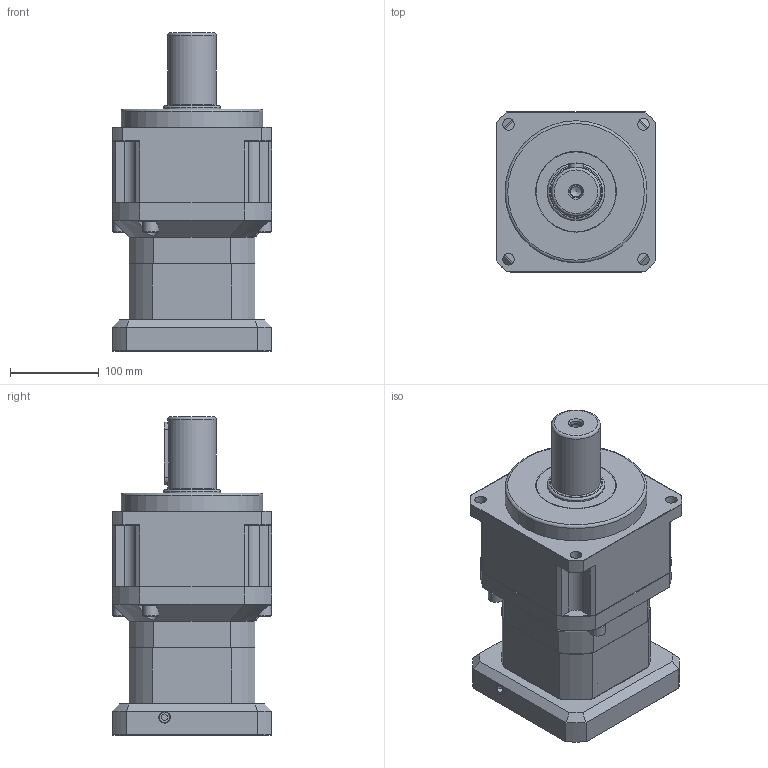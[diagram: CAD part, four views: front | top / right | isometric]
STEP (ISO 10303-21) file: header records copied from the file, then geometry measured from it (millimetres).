
FILE_DESCRIPTION((''),'2;1');
FILE_NAME('C:\Work\감속기 카다로그 도면\Li-Ming (11-08-22) 2D-3D\STEP\홈피\KSB\KSB-180-2.stp','2012-02-14T16:01:40',('young'),(''),'Autodesk Inventor 2012','Autodesk Inventor 2012','');
FILE_SCHEMA(('AUTOMOTIVE_DESIGN { 1 0 10303 214 1 1 1 1 }'));
Length unit declared in the file: millimetre
Products named in the file (1): KSB-180-2
Bounding box: 180 x 180 x 358.5 mm (x, y, z)
Volume: 6123069.9 mm3; surface area: 570595 mm2
Topology: 21 solids, 21 shells, 707 faces, 1685 edges, 1070 vertices
Faces by surface type: plane 385, cylinder 205, cone 88, torus 16, bspline 13
Full cylindrical faces by diameter (mm): 6.8 x4, 8.5 x12, 8.6 x1, 10 x5, 10.2 x4, 10.5 x8, 11 x1, 11.125 x2, 12 x5, 13 x6, 14 x5, 16 x5, 18 x4, 35.2 x1, 44.9 x1, 48.2 x1, 49.8 x1, 50 x1, 55 x1, 62 x1, 64.8 x1, 65 x1, 72 x2, 90 x2, 108 x1, 114.3 x1, 120 x2, 160 x1
Entity records: 20411 total; most frequent: CARTESIAN_POINT 4450, DIRECTION 3359, ORIENTED_EDGE 3004, EDGE_CURVE 1502, AXIS2_PLACEMENT_3D 1264, VERTEX_POINT 1037, EDGE_LOOP 955, VECTOR 831
